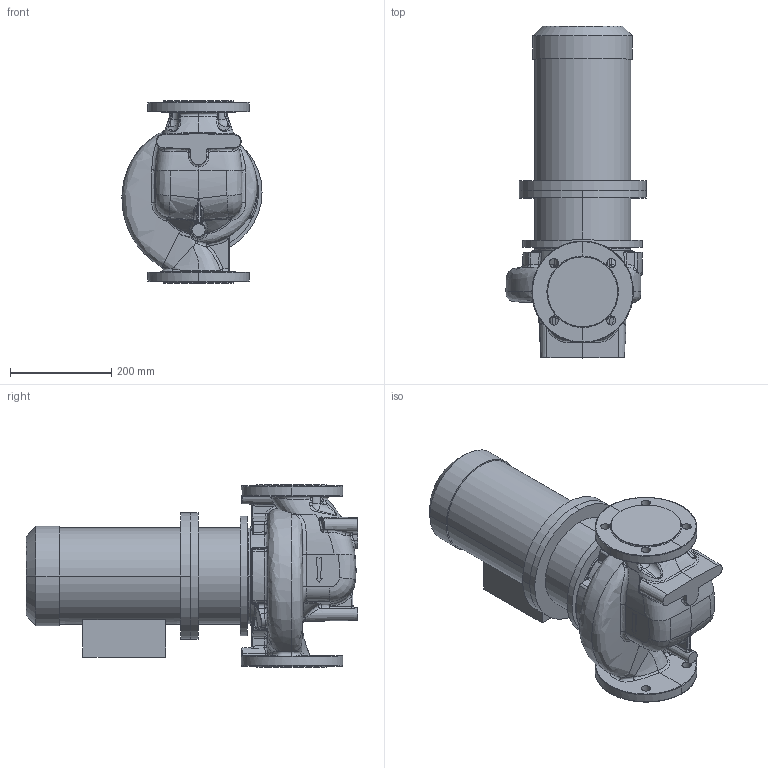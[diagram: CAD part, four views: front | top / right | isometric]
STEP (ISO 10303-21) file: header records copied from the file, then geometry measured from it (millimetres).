
FILE_DESCRIPTION (( 'STEP AP214' ), '1' );
FILE_NAME ('KRL 80-160-4-2,2.STEP', '2026-04-06T13:31:48', ( '' ), ( '' ), 'SwSTEP 2.0', 'SolidWorks 2016', '' );
FILE_SCHEMA (( 'AUTOMOTIVE_DESIGN' ));
Length unit declared in the file: millimetre
Products named in the file (1): KRL 80-160-4-2,2
Bounding box: 276.24 x 654.3 x 360 mm (x, y, z)
Volume: 24349004.9 mm3; surface area: 1053562.9 mm2
Topology: 4 solids, 5 shells, 589 faces, 1479 edges, 888 vertices
Faces by surface type: bspline 319, cylinder 115, plane 96, cone 31, torus 16, sphere 12
Entity records: 59938 total; most frequent: CARTESIAN_POINT 42340, ORIENTED_EDGE 2896, DIRECTION 1510, EDGE_CURVE 1448, VERTEX_POINT 888, B_SPLINE_CURVE_WITH_KNOTS 707, AXIS2_PLACEMENT_3D 641, EDGE_LOOP 624
